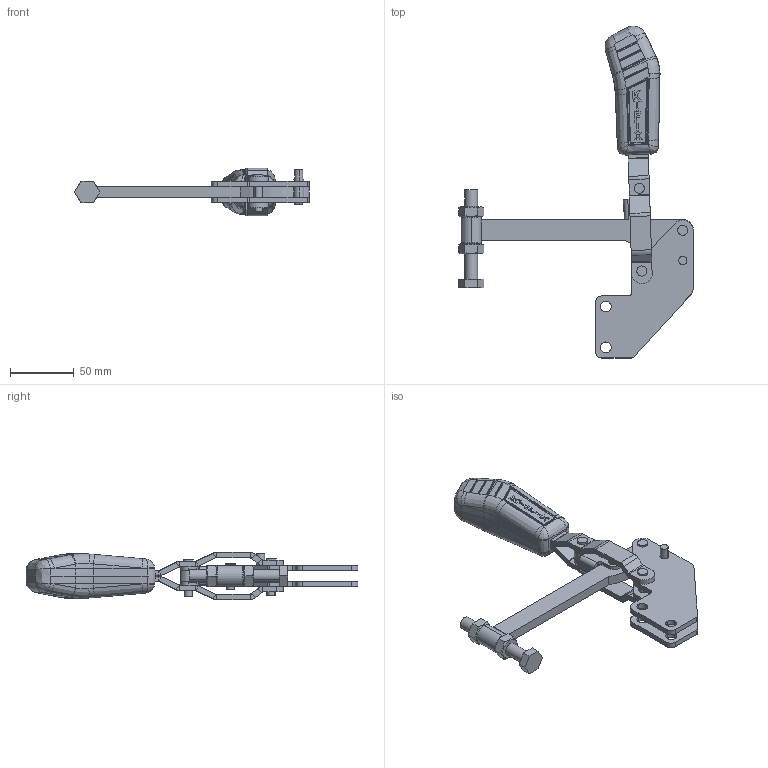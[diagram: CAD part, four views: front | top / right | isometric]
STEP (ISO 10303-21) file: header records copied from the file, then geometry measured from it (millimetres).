
FILE_DESCRIPTION (( 'STEP AP203' ), '1' );
FILE_NAME ('KF-311 RS.STEP', '2014-07-31T17:25:11', ( 'Ricardo' ), ( '' ), 'SwSTEP 2.0', 'SolidWorks 2013', '' );
FILE_SCHEMA (( 'CONFIG_CONTROL_DESIGN' ));
Length unit declared in the file: millimetre
Products named in the file (14): 20.20005; 04.10002; 11.50003; 07.60002; 12.50021; 04.20002; PSB-M10; 06.50007; KF-311 RS; 06.50008; 05.20005; 02.11020; 03.15004; 01.10013
Assembly tree (18 placements, depth 3):
  KF-311 RS
    01.10013  x2
    04.10002
    07.60002
    04.20002
    06.50007  x2
    06.50008  x2
    05.20005
    02.11020  x2
    03.15004
    PSB-M10
      20.20005
      11.50003  x2
      12.50021
Bounding box: 183.72 x 259.79 x 37 mm (x, y, z)
Volume: 186328.1 mm3; surface area: 75276.5 mm2
Topology: 17 solids, 17 shells, 739 faces, 1805 edges, 1111 vertices
Faces by surface type: plane 291, cylinder 196, bspline 157, sphere 52, cone 40, torus 3
Entity records: 23650 total; most frequent: CARTESIAN_POINT 8890, ORIENTED_EDGE 2984, DIRECTION 2359, EDGE_CURVE 1492, VERTEX_POINT 931, AXIS2_PLACEMENT_3D 893, EDGE_LOOP 673, FACE_OUTER_BOUND 612
